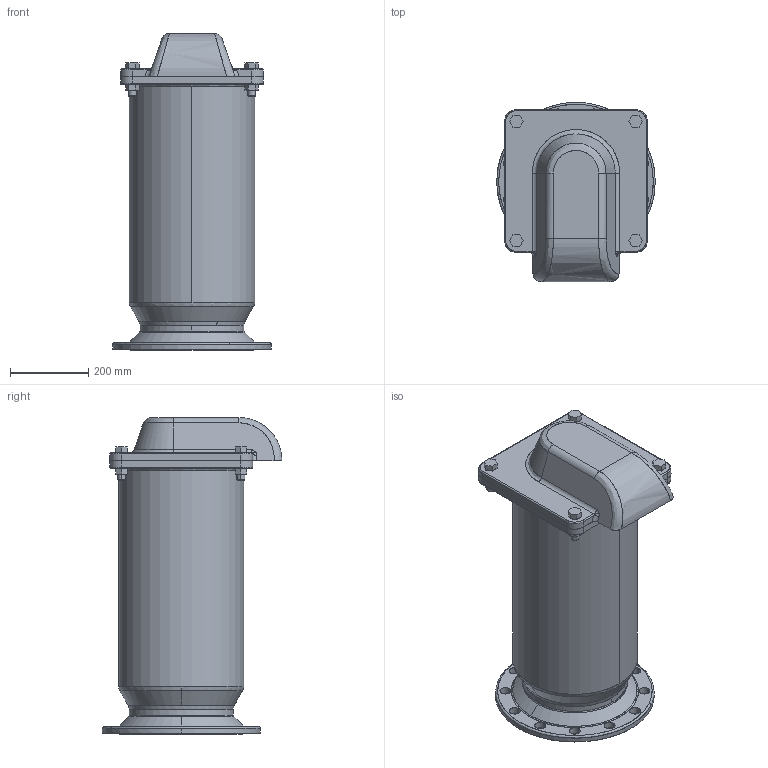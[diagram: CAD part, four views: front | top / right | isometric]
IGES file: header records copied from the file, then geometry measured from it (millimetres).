
Start section: SolidWorks IGES file using analytic representation for surfaces
Global section: file name: C:\Users\Administrator\Desktop\temp\0.IGS; native system: SolidWorks 2015; preprocessor: SolidWorks 2015; author: Administrator; date: 170528.101023; units: millimetre
Bounding box: 405 x 460 x 810 mm (x, y, z)
Surface area: 4267921.9 mm2 (no closed solid volume)
Topology: 0 solids, 0 shells, 343 faces, 6523 edges, 6510 vertices
Faces by surface type: bspline 200, revolution 143
